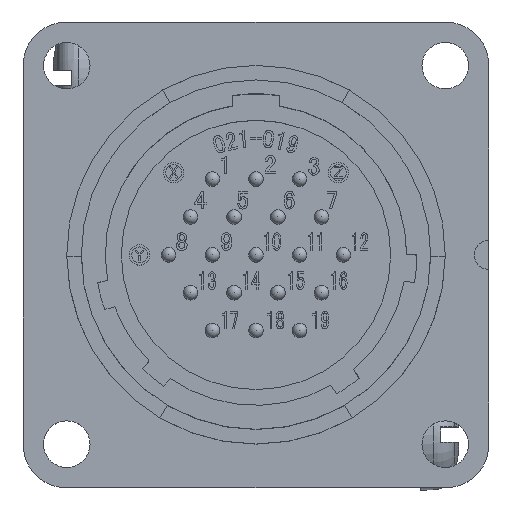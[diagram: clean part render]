
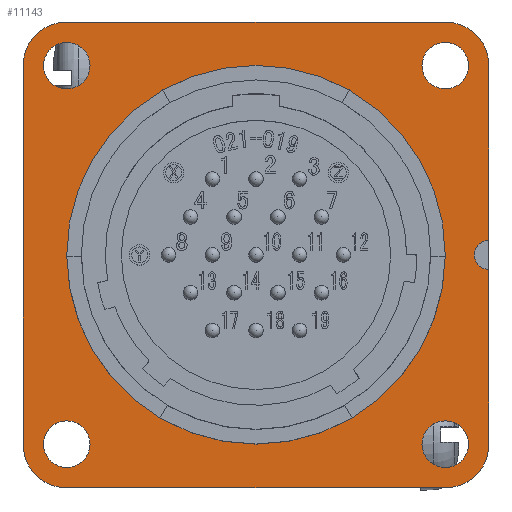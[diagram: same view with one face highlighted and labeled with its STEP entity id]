
A CAD part, top view. The second image highlights one B-rep face of the part: STEP entity #11143.
In plain terms, the highlighted planar face has unit normal (0, 0, 1).
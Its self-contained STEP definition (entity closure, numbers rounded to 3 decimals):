
#2 = CARTESIAN_POINT ( 'NONE',  ( 16., 1., -10.5 ) ) ;
#2524 = VERTEX_POINT ( 'NONE', #52996 ) ;
#2661 = DIRECTION ( 'NONE',  ( 0., 0., -1. ) ) ;
#2682 = CARTESIAN_POINT ( 'NONE',  ( -13., -16., -10.5 ) ) ;
#2785 = CARTESIAN_POINT ( 'NONE',  ( 16., 13., -10.5 ) ) ;
#2994 = EDGE_CURVE ( 'NONE', #68860, #14411, #14867, .T. ) ;
#3208 = AXIS2_PLACEMENT_3D ( 'NONE', #71796, #66654, #59917 ) ;
#4168 = CARTESIAN_POINT ( 'NONE',  ( 13., 14.6, -10.5 ) ) ;
#4605 = VERTEX_POINT ( 'NONE', #73680 ) ;
#4761 = CIRCLE ( 'NONE', #60008, 1.6 ) ;
#5022 = LINE ( 'NONE', #6195, #15818 ) ;
#5924 = DIRECTION ( 'NONE',  ( -1., 0., 0. ) ) ;
#6195 = CARTESIAN_POINT ( 'NONE',  ( 16., 0., -10.5 ) ) ;
#6233 = AXIS2_PLACEMENT_3D ( 'NONE', #64504, #59063, #70439 ) ;
#6444 = VERTEX_POINT ( 'NONE', #2 ) ;
#6492 = EDGE_CURVE ( 'NONE', #38519, #6444, #5022, .T. ) ;
#7695 = AXIS2_PLACEMENT_3D ( 'NONE', #11328, #28249, #39996 ) ;
#7762 = ORIENTED_EDGE ( 'NONE', *, *, #54887, .F. ) ;
#8448 = DIRECTION ( 'NONE',  ( -1., 0., 0. ) ) ;
#8631 = VERTEX_POINT ( 'NONE', #64662 ) ;
#9026 = EDGE_CURVE ( 'NONE', #6444, #2524, #48761, .T. ) ;
#9055 = VERTEX_POINT ( 'NONE', #56704 ) ;
#9570 = EDGE_LOOP ( 'NONE', ( #31353 ) ) ;
#10515 = EDGE_CURVE ( 'NONE', #25641, #33658, #19300, .T. ) ;
#11143 = ADVANCED_FACE ( 'NONE', ( #45814, #68824, #65135, #37564, #69739, #49488 ), #19626, .F. ) ;
#11328 = CARTESIAN_POINT ( 'NONE',  ( 13., -13., -10.5 ) ) ;
#12321 = DIRECTION ( 'NONE',  ( 0., 0., -1. ) ) ;
#13774 = DIRECTION ( 'NONE',  ( 0., 0., -1. ) ) ;
#14411 = VERTEX_POINT ( 'NONE', #27644 ) ;
#14867 = CIRCLE ( 'NONE', #7695, 3. ) ;
#15818 = VECTOR ( 'NONE', #47676, 1000. ) ;
#15855 = ORIENTED_EDGE ( 'NONE', *, *, #62192, .F. ) ;
#15870 = AXIS2_PLACEMENT_3D ( 'NONE', #50992, #68724, #62791 ) ;
#16021 = AXIS2_PLACEMENT_3D ( 'NONE', #52030, #16158, #52274 ) ;
#16158 = DIRECTION ( 'NONE',  ( 0., 0., -1. ) ) ;
#17046 = EDGE_CURVE ( 'NONE', #20239, #20239, #38026, .T. ) ;
#17213 = EDGE_CURVE ( 'NONE', #4605, #4605, #65382, .T. ) ;
#18739 = AXIS2_PLACEMENT_3D ( 'NONE', #75319, #39362, #74819 ) ;
#18957 = CARTESIAN_POINT ( 'NONE',  ( 13., 13., -10.5 ) ) ;
#19300 = CIRCLE ( 'NONE', #18739, 3. ) ;
#19366 = CARTESIAN_POINT ( 'NONE',  ( -13., 16., -10.5 ) ) ;
#19626 = PLANE ( 'NONE',  #31512 ) ;
#20239 = VERTEX_POINT ( 'NONE', #49538 ) ;
#21133 = VECTOR ( 'NONE', #62126, 1000. ) ;
#23956 = LINE ( 'NONE', #74200, #21133 ) ;
#24043 = CARTESIAN_POINT ( 'NONE',  ( 13., -16., -10.5 ) ) ;
#24804 = DIRECTION ( 'NONE',  ( 0., -1., 0. ) ) ;
#25293 = CARTESIAN_POINT ( 'NONE',  ( 0., 16., -10.5 ) ) ;
#25317 = CARTESIAN_POINT ( 'NONE',  ( 16., 0., -10.5 ) ) ;
#25539 = DIRECTION ( 'NONE',  ( 0., -1., 0. ) ) ;
#25641 = VERTEX_POINT ( 'NONE', #61284 ) ;
#27579 = VERTEX_POINT ( 'NONE', #19366 ) ;
#27644 = CARTESIAN_POINT ( 'NONE',  ( 16., -13., -10.5 ) ) ;
#27984 = ORIENTED_EDGE ( 'NONE', *, *, #43809, .T. ) ;
#28249 = DIRECTION ( 'NONE',  ( 0., 0., 1. ) ) ;
#29437 = EDGE_CURVE ( 'NONE', #25641, #8631, #23956, .T. ) ;
#29585 = EDGE_LOOP ( 'NONE', ( #66464 ) ) ;
#31353 = ORIENTED_EDGE ( 'NONE', *, *, #17046, .T. ) ;
#31357 = EDGE_CURVE ( 'NONE', #27579, #8631, #44752, .T. ) ;
#31512 = AXIS2_PLACEMENT_3D ( 'NONE', #25293, #2661, #25539 ) ;
#31771 = CARTESIAN_POINT ( 'NONE',  ( 13., 13., -10.5 ) ) ;
#32062 = VECTOR ( 'NONE', #58867, 1000. ) ;
#32860 = VERTEX_POINT ( 'NONE', #69324 ) ;
#32908 = ORIENTED_EDGE ( 'NONE', *, *, #29437, .F. ) ;
#33658 = VERTEX_POINT ( 'NONE', #2682 ) ;
#34164 = CIRCLE ( 'NONE', #6233, 1.6 ) ;
#34390 = CARTESIAN_POINT ( 'NONE',  ( 0., -16., -10.5 ) ) ;
#34453 = DIRECTION ( 'NONE',  ( 0., 0., 1. ) ) ;
#35276 = EDGE_LOOP ( 'NONE', ( #51092 ) ) ;
#36923 = CIRCLE ( 'NONE', #49447, 1.6 ) ;
#37149 = EDGE_CURVE ( 'NONE', #9055, #9055, #34164, .T. ) ;
#37397 = VERTEX_POINT ( 'NONE', #4168 ) ;
#37564 = FACE_BOUND ( 'NONE', #50889, .T. ) ;
#38026 = CIRCLE ( 'NONE', #16021, 13. ) ;
#38129 = DIRECTION ( 'NONE',  ( 0., 0., -1. ) ) ;
#38519 = VERTEX_POINT ( 'NONE', #2785 ) ;
#39362 = DIRECTION ( 'NONE',  ( 0., 0., 1. ) ) ;
#39653 = AXIS2_PLACEMENT_3D ( 'NONE', #31771, #38129, #8448 ) ;
#39996 = DIRECTION ( 'NONE',  ( -1., 0., 0. ) ) ;
#41164 = CARTESIAN_POINT ( 'NONE',  ( 0., 16., -10.5 ) ) ;
#42010 = CARTESIAN_POINT ( 'NONE',  ( 13., 16., -10.5 ) ) ;
#43809 = EDGE_CURVE ( 'NONE', #37397, #37397, #4761, .T. ) ;
#43868 = VECTOR ( 'NONE', #24804, 1000. ) ;
#44752 = CIRCLE ( 'NONE', #15870, 3. ) ;
#45693 = ORIENTED_EDGE ( 'NONE', *, *, #2994, .T. ) ;
#45814 = FACE_OUTER_BOUND ( 'NONE', #73055, .T. ) ;
#46968 = EDGE_CURVE ( 'NONE', #68860, #33658, #61488, .T. ) ;
#47384 = EDGE_CURVE ( 'NONE', #27579, #65889, #48570, .T. ) ;
#47676 = DIRECTION ( 'NONE',  ( 0., -1., 0. ) ) ;
#48121 = DIRECTION ( 'NONE',  ( 0., 1., 0. ) ) ;
#48534 = AXIS2_PLACEMENT_3D ( 'NONE', #69652, #34453, #68852 ) ;
#48570 = LINE ( 'NONE', #41164, #32062 ) ;
#48761 = CIRCLE ( 'NONE', #48534, 1. ) ;
#49447 = AXIS2_PLACEMENT_3D ( 'NONE', #72510, #13774, #72271 ) ;
#49488 = FACE_BOUND ( 'NONE', #65516, .T. ) ;
#49538 = CARTESIAN_POINT ( 'NONE',  ( -13., 0., -10.5 ) ) ;
#50889 = EDGE_LOOP ( 'NONE', ( #27984 ) ) ;
#50992 = CARTESIAN_POINT ( 'NONE',  ( -13., 13., -10.5 ) ) ;
#51092 = ORIENTED_EDGE ( 'NONE', *, *, #52044, .T. ) ;
#52030 = CARTESIAN_POINT ( 'NONE',  ( 0., 0., -10.5 ) ) ;
#52044 = EDGE_CURVE ( 'NONE', #32860, #32860, #36923, .T. ) ;
#52274 = DIRECTION ( 'NONE',  ( -1., 0., 0. ) ) ;
#52427 = CIRCLE ( 'NONE', #39653, 3. ) ;
#52466 = ORIENTED_EDGE ( 'NONE', *, *, #9026, .F. ) ;
#52996 = CARTESIAN_POINT ( 'NONE',  ( 16., -1., -10.5 ) ) ;
#54354 = ORIENTED_EDGE ( 'NONE', *, *, #10515, .T. ) ;
#54887 = EDGE_CURVE ( 'NONE', #65889, #38519, #52427, .T. ) ;
#55012 = ORIENTED_EDGE ( 'NONE', *, *, #6492, .F. ) ;
#56704 = CARTESIAN_POINT ( 'NONE',  ( -13., -14.6, -10.5 ) ) ;
#58867 = DIRECTION ( 'NONE',  ( 1., 0., 0. ) ) ;
#58968 = ORIENTED_EDGE ( 'NONE', *, *, #46968, .F. ) ;
#59063 = DIRECTION ( 'NONE',  ( 0., 0., -1. ) ) ;
#59917 = DIRECTION ( 'NONE',  ( -1., 0., 0. ) ) ;
#60008 = AXIS2_PLACEMENT_3D ( 'NONE', #18957, #12321, #48121 ) ;
#61284 = CARTESIAN_POINT ( 'NONE',  ( -16., -13., -10.5 ) ) ;
#61488 = LINE ( 'NONE', #34390, #68806 ) ;
#62126 = DIRECTION ( 'NONE',  ( 0., 1., 0. ) ) ;
#62192 = EDGE_CURVE ( 'NONE', #2524, #14411, #71476, .T. ) ;
#62791 = DIRECTION ( 'NONE',  ( -1., 0., 0. ) ) ;
#64504 = CARTESIAN_POINT ( 'NONE',  ( -13., -13., -10.5 ) ) ;
#64662 = CARTESIAN_POINT ( 'NONE',  ( -16., 13., -10.5 ) ) ;
#64695 = ORIENTED_EDGE ( 'NONE', *, *, #47384, .F. ) ;
#65135 = FACE_BOUND ( 'NONE', #9570, .T. ) ;
#65382 = CIRCLE ( 'NONE', #3208, 1.6 ) ;
#65516 = EDGE_LOOP ( 'NONE', ( #67855 ) ) ;
#65889 = VERTEX_POINT ( 'NONE', #42010 ) ;
#66464 = ORIENTED_EDGE ( 'NONE', *, *, #17213, .T. ) ;
#66654 = DIRECTION ( 'NONE',  ( 0., 0., -1. ) ) ;
#67855 = ORIENTED_EDGE ( 'NONE', *, *, #37149, .T. ) ;
#68724 = DIRECTION ( 'NONE',  ( 0., 0., 1. ) ) ;
#68806 = VECTOR ( 'NONE', #5924, 1000. ) ;
#68824 = FACE_BOUND ( 'NONE', #29585, .T. ) ;
#68852 = DIRECTION ( 'NONE',  ( 1., 0., 0. ) ) ;
#68860 = VERTEX_POINT ( 'NONE', #24043 ) ;
#69324 = CARTESIAN_POINT ( 'NONE',  ( 14.6, -13., -10.5 ) ) ;
#69652 = CARTESIAN_POINT ( 'NONE',  ( 16., 0., -10.5 ) ) ;
#69739 = FACE_BOUND ( 'NONE', #35276, .T. ) ;
#70439 = DIRECTION ( 'NONE',  ( 0., -1., 0. ) ) ;
#71476 = LINE ( 'NONE', #25317, #43868 ) ;
#71796 = CARTESIAN_POINT ( 'NONE',  ( -13., 13., -10.5 ) ) ;
#72271 = DIRECTION ( 'NONE',  ( 1., 0., 0. ) ) ;
#72510 = CARTESIAN_POINT ( 'NONE',  ( 13., -13., -10.5 ) ) ;
#73055 = EDGE_LOOP ( 'NONE', ( #15855, #52466, #55012, #7762, #64695, #75742, #32908, #54354, #58968, #45693 ) ) ;
#73680 = CARTESIAN_POINT ( 'NONE',  ( -14.6, 13., -10.5 ) ) ;
#74200 = CARTESIAN_POINT ( 'NONE',  ( -16., 0., -10.5 ) ) ;
#74819 = DIRECTION ( 'NONE',  ( -1., 0., 0. ) ) ;
#75319 = CARTESIAN_POINT ( 'NONE',  ( -13., -13., -10.5 ) ) ;
#75742 = ORIENTED_EDGE ( 'NONE', *, *, #31357, .T. ) ;
